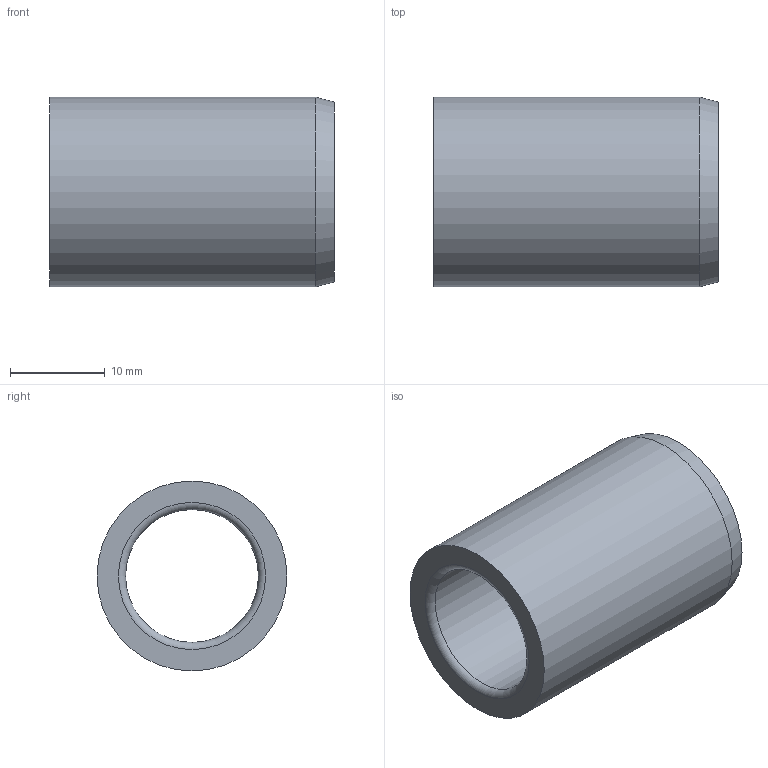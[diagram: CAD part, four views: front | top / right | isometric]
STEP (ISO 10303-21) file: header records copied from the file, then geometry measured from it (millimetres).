
FILE_DESCRIPTION(/* description */ ('Impex Ready, www.impex-ready.pl'),/* implementation_level */ '2;1');
FILE_NAME(/* name */ 'C:\Users\VIKKY\Nextcloud\SM\projekt 10 - części na stronę internetową\Pliki_3D_new\306 Tuleje BG04\306_BG04_STEP\BG04.142030.ipt.step',/* time_stamp */ '2021-12-17T16:29:10+01:00',/* author */ ('SM'),/* organization */ (''),/* preprocessor_version */ 'ST-DEVELOPER v18.1',/* originating_system */ 'Autodesk Inventor 2021',/* authorisation */ '');
FILE_SCHEMA (('AUTOMOTIVE_DESIGN { 1 0 10303 214 3 1 1 }'));
Length unit declared in the file: millimetre
Products named in the file (1): BG04.142030
Bounding box: 30 x 20 x 20 mm (x, y, z)
Volume: 4762.7 mm3; surface area: 3465.2 mm2
Topology: 1 solids, 1 shells, 7 faces, 14 edges, 9 vertices
Faces by surface type: torus 2, cylinder 2, plane 2, cone 1
Full cylindrical faces by diameter (mm): 14 x1, 20 x1
Entity records: 261 total; most frequent: DIRECTION 41, CARTESIAN_POINT 31, ORIENTED_EDGE 28, AXIS2_PLACEMENT_3D 19, EDGE_CURVE 14, CIRCLE 11, EDGE_LOOP 9, VERTEX_POINT 9
